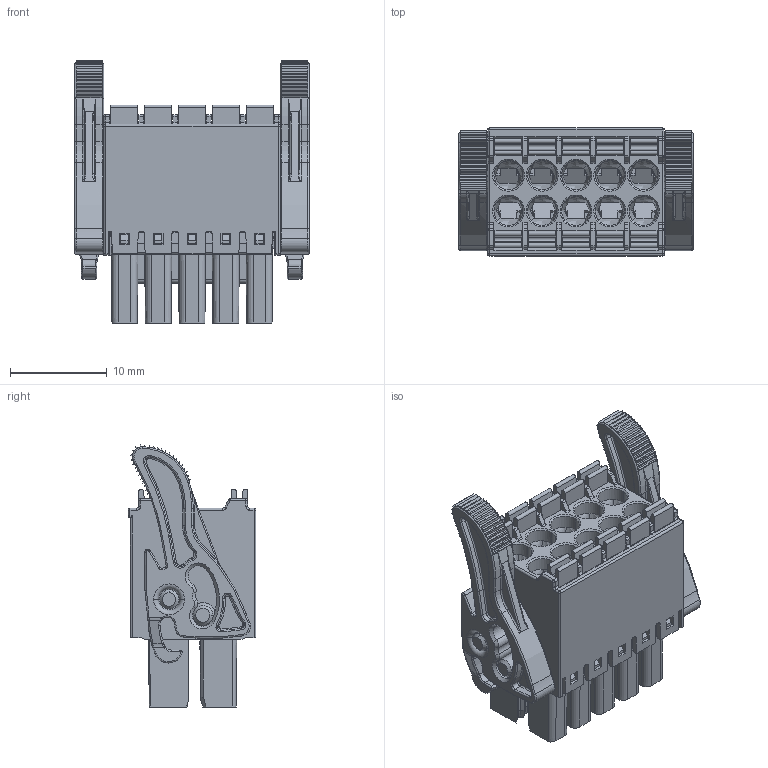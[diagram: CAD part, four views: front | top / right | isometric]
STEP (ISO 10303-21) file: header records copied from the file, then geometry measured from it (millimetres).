
FILE_DESCRIPTION((''),'2;1');
FILE_NAME('NL-05-ASM_ASM','2022-07-07T',('changsheng.chen'),(''),'CREO PARAMETRIC BY PTC INC, 2016260','CREO PARAMETRIC BY PTC INC, 2016260','');
FILE_SCHEMA(('CONFIG_CONTROL_DESIGN'));
Products named in the file (8): NL-BODY-DOWN; NL-CONTACT; NL-SPRING; CONTANCT-ASM_ASM; NL-BODY-UP; LEVER; OPRATION-LEVER; NL-05-ASM_ASM
Assembly tree (26 placements, depth 3):
  NL-05-ASM_ASM
    NL-BODY-DOWN
    CONTANCT-ASM_ASM  x10
      NL-CONTACT
      NL-SPRING
    NL-BODY-UP
    LEVER  x10
    OPRATION-LEVER  x2
Bounding box: 24.3 x 13.25 x 27.15 mm (x, y, z)
Volume: 3067.9 mm3; surface area: 10547.7 mm2
Topology: 34 solids, 34 shells, 3888 faces, 10774 edges, 6953 vertices
Faces by surface type: plane 2255, cylinder 1102, torus 240, cone 172, bspline 105, sphere 14
Entity records: 73061 total; most frequent: CARTESIAN_POINT 18346, ORIENTED_EDGE 11786, DIRECTION 11038, EDGE_CURVE 5893, VECTOR 4012, LINE 4012, VERTEX_POINT 3794, AXIS2_PLACEMENT_3D 3513
